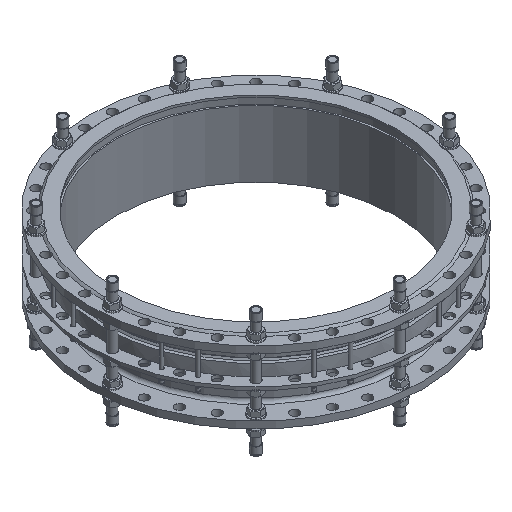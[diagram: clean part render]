
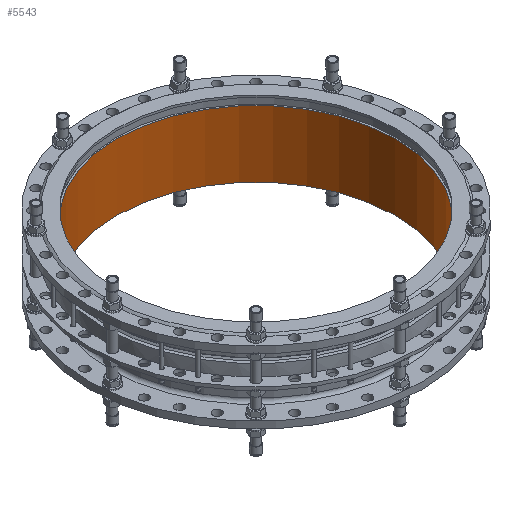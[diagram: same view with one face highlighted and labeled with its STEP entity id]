
A CAD part, isometric view. The second image highlights one B-rep face of the part: STEP entity #5543.
In plain terms, the highlighted cylindrical face has radius 700 mm (diameter 1400 mm), a full revolution.
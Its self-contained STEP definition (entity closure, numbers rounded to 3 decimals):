
#5543=ADVANCED_FACE('',(#6265,#6267),#6269,.F.);
#6265=FACE_OUTER_BOUND('',#6266,.T.);
#6266=EDGE_LOOP('',(#9246));
#6267=FACE_OUTER_BOUND('',#6268,.T.);
#6268=EDGE_LOOP('',(#9247));
#6269=CYLINDRICAL_SURFACE('',#6270,700.);
#6270=AXIS2_PLACEMENT_3D('',#6271,#6272,#6273);
#6271=CARTESIAN_POINT('',(0.,0.,0.));
#6272=DIRECTION('',(0.,0.,1.));
#6273=DIRECTION('',(-1.,0.,0.));
#9246=ORIENTED_EDGE('',*,*,#11049,.F.);
#9247=ORIENTED_EDGE('',*,*,#11050,.F.);
#11049=EDGE_CURVE('',#11866,#11866,#11867,.T.);
#11050=EDGE_CURVE('',#11868,#11868,#11869,.T.);
#11866=VERTEX_POINT('',#13339);
#11867=CIRCLE('',#13340,700.);
#11868=VERTEX_POINT('',#13344);
#11869=CIRCLE('',#13345,700.);
#13339=CARTESIAN_POINT('',(-700.,0.,334.));
#13340=AXIS2_PLACEMENT_3D('',#13341,#13342,#13343);
#13341=CARTESIAN_POINT('',(0.,0.,334.));
#13342=DIRECTION('',(0.,0.,-1.));
#13343=DIRECTION('',(-1.,0.,0.));
#13344=CARTESIAN_POINT('',(-700.,0.,0.));
#13345=AXIS2_PLACEMENT_3D('',#13346,#13347,#13348);
#13346=CARTESIAN_POINT('',(0.,0.,0.));
#13347=DIRECTION('',(0.,0.,1.));
#13348=DIRECTION('',(-1.,0.,0.));
